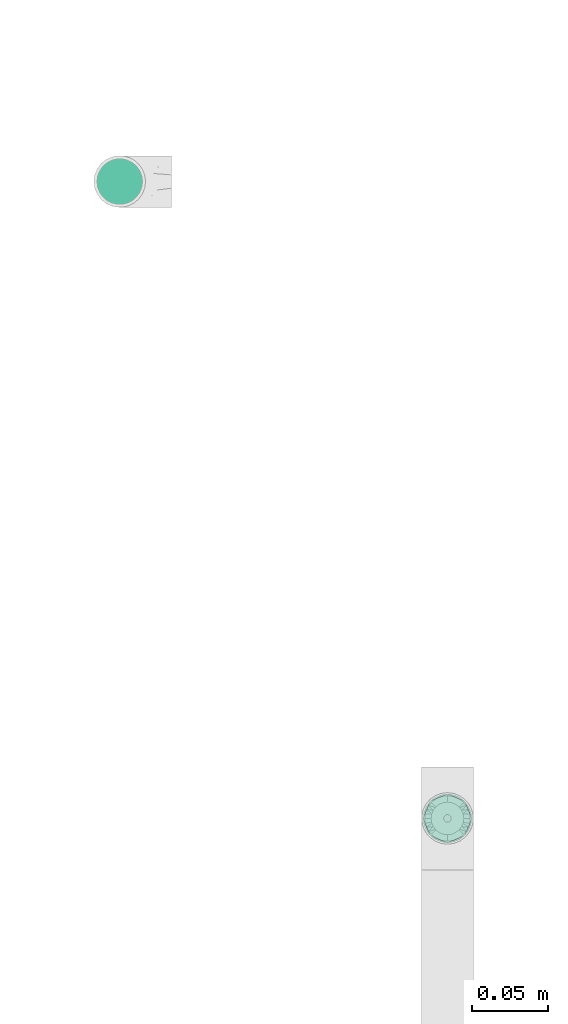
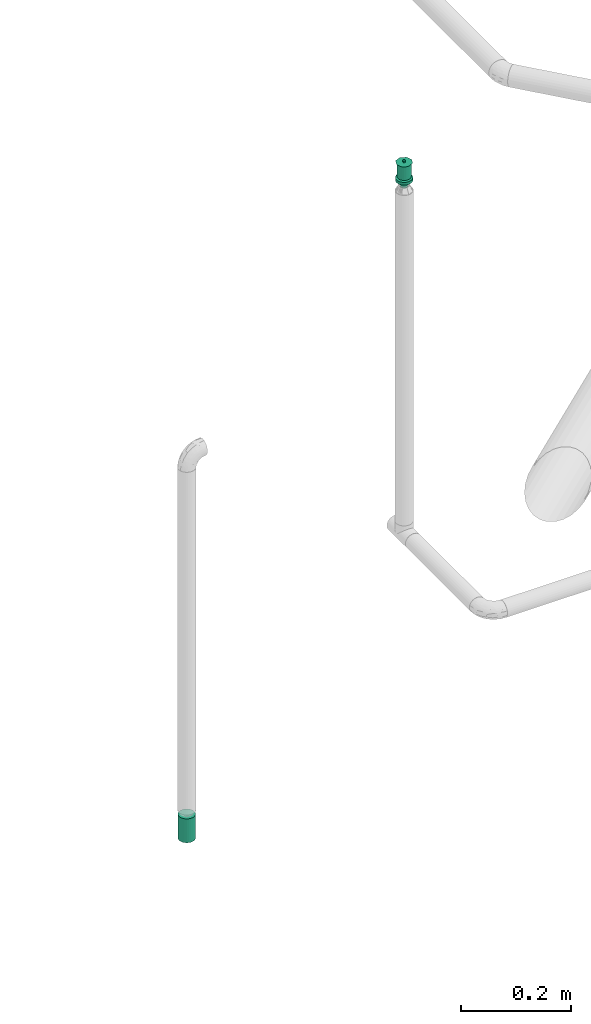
# One storey, part 41 of 94: 2 flow terminals.
"""IFC2X3 building model written with IfcOpenShell, lengths in millimetres."""

from ifc_helpers import new_model, entity, si_unit, converted_unit, derived_unit, direction, frame, origin_with_axes, place, context, subcontext, project, spatial, open_shell, surface_model, source, transform, mapped, type_object, element, save


model = new_model("IFC2X3")

# Units and contexts
model_context = context("Model", 3, precision=0.01, world=frame((0.0, 4.29681676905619e-09, 0.0)), true_north=direction((4.01073788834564e-13, 1.0)))
plan_context = context("Plan", 3, precision=0.01, world=frame((0.0, 4.29681676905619e-09, 0.0)), true_north=direction((4.01073788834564e-13, 1.0)))
body_context = subcontext(model_context, "Body", "Model", "MODEL_VIEW")
ifc_project = project(units=[converted_unit("PLANEANGLEUNIT", "DEGREE", entity("IfcPositiveLengthMeasure", 0.0174532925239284), si_unit("PLANEANGLEUNIT", "RADIAN"), dimensions=[0, 0, 0, 0, 0, 0, 0]), si_unit("AREAUNIT", "SQUARE_METRE"), si_unit("LENGTHUNIT", "METRE", prefix="MILLI"), si_unit("MASSUNIT", "GRAM", prefix="KILO"), si_unit("POWERUNIT", "WATT"), si_unit("PRESSUREUNIT", "PASCAL", prefix="KILO"), si_unit("FORCEUNIT", "NEWTON", prefix="KILO"), si_unit("ELECTRICVOLTAGEUNIT", "VOLT"), si_unit("ELECTRICCURRENTUNIT", "AMPERE"), si_unit("THERMODYNAMICTEMPERATUREUNIT", "DEGREE_CELSIUS"), si_unit("TIMEUNIT", "SECOND"), si_unit("VOLUMEUNIT", "CUBIC_METRE"), derived_unit("LINEARVELOCITYUNIT", [(si_unit("LENGTHUNIT", "METRE"), 1), (si_unit("TIMEUNIT", "SECOND"), -1)]), derived_unit("VOLUMETRICFLOWRATEUNIT", [(si_unit("VOLUMEUNIT", "CUBIC_METRE"), 1), (si_unit("TIMEUNIT", "SECOND"), -1)]), derived_unit("THERMALTRANSMITTANCEUNIT", [(si_unit("POWERUNIT", "WATT"), 1), (si_unit("THERMODYNAMICTEMPERATUREUNIT", "KELVIN"), -1), (si_unit("AREAUNIT", "SQUARE_METRE"), -1)]), derived_unit("SOUNDPRESSUREUNIT", [(si_unit("PRESSUREUNIT", "PASCAL"), 1)])], contexts=[model_context, plan_context])

# Site, building, storey
site_placement = place(None, frame((0.0, -4.29681676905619e-09, 0.0), z_axis=(0.0, 0.0, 1.0), x_axis=(1.0, 0.0, 0.0)))
site = spatial("IfcSite", under=ifc_project, at=site_placement, CompositionType="ELEMENT")
building_placement = place(site_placement, frame((0.0, 4.29681676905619e-09, 0.0), z_axis=(0.0, 0.0, 1.0), x_axis=(1.0, 0.0, 0.0)))
building = spatial("IfcBuilding", under=site, at=building_placement, Name="mc-building", CompositionType="ELEMENT")
storey_placement = place(building_placement, frame((0.0, 0.0, 210900.0), z_axis=(0.0, 0.0, 1.0), x_axis=(1.0, 0.0, 0.0)))
storey = spatial("IfcBuildingStorey", under=building, at=storey_placement, Name="Nivå F", CompositionType="ELEMENT", Elevation=210900.0)

# Flow terminals
fire_suppression_terminal_type_1 = type_object("IfcFireSuppressionTerminalType", Name="68DGR-STD-STÅENDE", PredefinedType="NOTDEFINED")
shared_shape_1 = source(origin_with_axes(), body_context, "Body", "SurfaceModel", [
    surface_model("IfcShellBasedSurfaceModel", [(3.36465, -12.55704, 51.0), (6.5, -11.25833, 51.0), (9.19239, -9.19239, 51.0), (12.55704, -3.36465, 51.0), (-11.25833, -6.5, 51.0), (11.25833, -6.5, 51.0), (-13.0, 0.0, 51.0), (0.0, -13.0, 51.0), (-6.5, -11.25833, 51.0), (-3.36465, -12.55704, 51.0), (-9.19239, -9.19239, 51.0), (-12.55704, -3.36465, 51.0), (13.0, 0.0, 51.0), (12.55704, 3.36465, 51.0), (11.25833, 6.5, 51.0), (9.19239, 9.19239, 51.0), (6.5, 11.25833, 51.0), (3.36465, 12.55704, 51.0), (0.0, 13.0, 51.0), (-3.36465, 12.55704, 51.0), (-12.55704, 3.36465, 51.0), (-9.19239, 9.19239, 51.0), (-11.25833, 6.5, 51.0), (-6.5, 11.25833, 51.0), (0.0, 13.0, 21.14766), (3.36465, 12.55704, 21.14766), (6.5, 11.25833, 21.14766), (-3.36465, 12.55704, 21.14766), (9.19239, 9.19239, 21.14766), (11.25833, 6.5, 21.14766), (12.55704, 3.36465, 21.14766), (-12.55704, 3.36465, 21.14766), (-11.25833, -6.5, 21.14766), (-9.19239, 9.19239, 21.14766), (-6.5, 11.25833, 21.14766), (-11.25833, 6.5, 21.14766), (-13.0, 0.0, 21.14766), (12.55704, -3.36465, 21.14766), (9.19239, -9.19239, 21.14766), (11.25833, -6.5, 21.14766), (6.5, -11.25833, 21.14766), (3.36465, -12.55704, 21.14766), (-6.5, -11.25833, 21.14766), (-9.19239, -9.19239, 21.14766), (-12.55704, -3.36465, 21.14766), (0.0, -13.0, 21.14766), (-3.36465, -12.55704, 21.14766), (13.0, 0.0, 21.14766), (7.24444, -1.94114, 0.1), (1.94114, -7.24444, 0.1), (3.75, -6.49519, 0.1), (5.3033, -5.3033, 0.1), (-5.3033, -5.3033, 0.1), (6.49519, -3.75, 0.1), (5.3033, 5.3033, 0.1), (0.0, -7.5, 0.1), (-3.75, -6.49519, 0.1), (-1.94114, -7.24444, 0.1), (-7.24444, -1.94114, 0.1), (-6.49519, -3.75, 0.1), (-7.24444, 1.94114, 0.1), (7.5, 0.0, 0.1), (6.49519, 3.75, 0.1), (-6.49519, 3.75, 0.1), (1.94114, 7.24444, 0.1), (0.0, 7.5, 0.1), (3.75, 6.49519, 0.1), (-7.5, 0.0, 0.1), (-5.3033, 5.3033, 0.1), (-1.94114, 7.24444, 0.1), (-3.75, 6.49519, 0.1), (7.24444, 1.94114, 0.1), (1.94114, 7.24444, -0.1), (-6.49519, 3.75, -0.1), (0.0, 7.5, -0.1), (5.3033, 5.3033, -0.1), (3.75, 6.49519, -0.1), (6.49519, 3.75, -0.1), (7.24444, 1.94114, -0.1), (-1.94114, 7.24444, -0.1), (-5.3033, 5.3033, -0.1), (-3.75, 6.49519, -0.1), (-7.24444, 1.94114, -0.1), (-7.24444, -1.94114, -0.1), (-7.5, 0.0, -0.1), (7.5, 0.0, -0.1), (7.24444, -1.94114, -0.1), (-5.3033, -5.3033, -0.1), (1.94114, -7.24444, -0.1), (6.49519, -3.75, -0.1), (5.3033, -5.3033, -0.1), (3.75, -6.49519, -0.1), (-6.49519, -3.75, -0.1), (-3.75, -6.49519, -0.1), (0.0, -7.5, -0.1), (-1.94114, -7.24444, -0.1), (0.0, -2.5, 51.0), (-2.5, 0.0, 51.0), (0.0, 2.5, 51.0), (2.5, 0.0, 51.0), (0.0, -16.0, 53.0), (11.31371, -11.31371, 53.0), (-11.31371, -11.31371, 53.0), (-16.0, 0.0, 53.0), (16.0, 0.0, 53.0), (11.31371, 11.31371, 53.0), (0.0, 16.0, 53.0), (-11.31371, 11.31371, 53.0), (1.25, -2.16506, 57.0), (0.0, -2.5, 57.0), (0.64705, -2.41481, 57.0), (2.41481, -0.64705, 57.0), (1.76777, -1.76777, 57.0), (-2.41481, -0.64705, 57.0), (-2.5, 0.0, 57.0), (2.16506, -1.25, 57.0), (-1.25, -2.16506, 57.0), (-0.64705, -2.41481, 57.0), (-1.76777, -1.76777, 57.0), (-2.16506, -1.25, 57.0), (2.5, 0.0, 57.0), (2.41481, 0.64705, 57.0), (2.16506, 1.25, 57.0), (1.76777, 1.76777, 57.0), (0.64705, 2.41481, 57.0), (1.25, 2.16506, 57.0), (-1.76777, 1.76777, 57.0), (0.0, 2.5, 57.0), (-2.16506, 1.25, 57.0), (-2.41481, 0.64705, 57.0), (-0.64705, 2.41481, 57.0), (-1.25, 2.16506, 57.0), (1.25, 2.16506, 51.0), (1.76777, 1.76777, 51.0), (1.15, 1.99186, 51.0), (0.59528, 2.22163, 51.0), (0.64705, 2.41481, 51.0), (0.0, 2.3, 51.0), (1.62635, 1.62635, 51.0), (2.41481, 0.64705, 51.0), (2.3, 0.0, 51.0), (2.22163, 0.59528, 51.0), (2.16506, 1.25, 51.0), (1.99186, 1.15, 51.0), (-0.59528, 2.22163, 51.0), (-0.64705, 2.41481, 51.0), (-1.15, 1.99186, 51.0), (-1.76777, 1.76777, 51.0), (-1.25, 2.16506, 51.0), (-1.62635, 1.62635, 51.0), (-1.99186, 1.15, 51.0), (-2.16506, 1.25, 51.0), (-2.22163, 0.59528, 51.0), (-2.41481, 0.64705, 51.0), (-2.3, 0.0, 51.0), (2.41481, -0.64705, 51.0), (2.22163, -0.59528, 51.0), (1.99186, -1.15, 51.0), (2.16506, -1.25, 51.0), (1.62635, -1.62635, 51.0), (1.76777, -1.76777, 51.0), (1.25, -2.16506, 51.0), (1.15, -1.99186, 51.0), (0.59528, -2.22163, 51.0), (0.64705, -2.41481, 51.0), (0.0, -2.3, 51.0), (-2.16506, -1.25, 51.0), (-1.99186, -1.15, 51.0), (-1.76777, -1.76777, 51.0), (-1.62635, -1.62635, 51.0), (-2.41481, -0.64705, 51.0), (-2.22163, -0.59528, 51.0), (-0.59528, -2.22163, 51.0), (-0.64705, -2.41481, 51.0), (-1.15, -1.99186, 51.0), (-1.25, -2.16506, 51.0), (1.62635, -1.62635, 56.8), (1.15, -1.99186, 56.8), (0.59528, -2.22163, 56.8), (0.0, -2.3, 56.8), (2.22163, 0.59528, 56.8), (1.99186, -1.15, 56.8), (2.22163, -0.59528, 56.8), (-0.59528, -2.22163, 56.8), (-1.15, -1.99186, 56.8), (-1.62635, -1.62635, 56.8), (-1.99186, -1.15, 56.8), (-2.22163, -0.59528, 56.8), (-1.99186, 1.15, 56.8), (2.3, 0.0, 56.8), (1.62635, 1.62635, 56.8), (1.99186, 1.15, 56.8), (1.15, 1.99186, 56.8), (0.0, 2.3, 56.8), (0.59528, 2.22163, 56.8), (-2.22163, 0.59528, 56.8), (-2.3, 0.0, 56.8), (-1.15, 1.99186, 56.8), (-0.59528, 2.22163, 56.8), (-1.62635, 1.62635, 56.8), (4.1411, -15.45481, 19.0), (8.0, -13.85641, 19.0), (11.31371, -11.31371, 19.0), (-8.0, -13.85641, 19.0), (15.45481, -4.1411, 19.0), (16.0, 0.0, 19.0), (13.85641, -8.0, 19.0), (0.0, -16.0, 19.0), (-4.1411, -15.45481, 19.0), (-13.85641, -8.0, 19.0), (-11.31371, -11.31371, 19.0), (-15.45481, -4.1411, 19.0), (15.45481, 4.1411, 19.0), (13.85641, 8.0, 19.0), (11.31371, 11.31371, 19.0), (-4.1411, 15.45481, 19.0), (8.0, 13.85641, 19.0), (4.1411, 15.45481, 19.0), (0.0, 16.0, 19.0), (-13.85641, 8.0, 19.0), (-15.45481, 4.1411, 19.0), (-16.0, 0.0, 19.0), (-11.31371, 11.31371, 19.0), (-8.0, 13.85641, 19.0), (0.0, 16.0, 13.0), (4.1411, 15.45481, 13.0), (8.0, 13.85641, 13.0), (-4.1411, 15.45481, 13.0), (11.31371, 11.31371, 13.0), (13.85641, 8.0, 13.0), (15.45481, 4.1411, 13.0), (-15.45481, -4.1411, 13.0), (-11.31371, 11.31371, 13.0), (-8.0, 13.85641, 13.0), (-13.85641, 8.0, 13.0), (-15.45481, 4.1411, 13.0), (-16.0, 0.0, 13.0), (4.1411, -15.45481, 13.0), (16.0, 0.0, 13.0), (15.45481, -4.1411, 13.0), (13.85641, -8.0, 13.0), (11.31371, -11.31371, 13.0), (8.0, -13.85641, 13.0), (-8.0, -13.85641, 13.0), (-13.85641, -8.0, 13.0), (-11.31371, -11.31371, 13.0), (0.0, -16.0, 13.0), (-4.1411, -15.45481, 13.0), (7.24444, -1.94114, 13.0), (1.94114, -7.24444, 13.0), (3.75, -6.49519, 13.0), (5.3033, -5.3033, 13.0), (-5.3033, -5.3033, 13.0), (6.49519, -3.75, 13.0), (5.3033, 5.3033, 13.0), (0.0, -7.5, 13.0), (-3.75, -6.49519, 13.0), (-1.94114, -7.24444, 13.0), (-7.24444, -1.94114, 13.0), (-6.49519, -3.75, 13.0), (-7.24444, 1.94114, 13.0), (7.5, 0.0, 13.0), (6.49519, 3.75, 13.0), (-6.49519, 3.75, 13.0), (1.94114, 7.24444, 13.0), (0.0, 7.5, 13.0), (3.75, 6.49519, 13.0), (-7.5, 0.0, 13.0), (-5.3033, 5.3033, 13.0), (-1.94114, 7.24444, 13.0), (-3.75, 6.49519, 13.0), (7.24444, 1.94114, 13.0), (3.75, 6.49519, 0.0), (5.3033, 5.3033, 0.0), (3.65, 6.32199, 0.0), (1.88938, 7.05126, 0.0), (0.0, 7.3, 0.0), (1.94114, 7.24444, 0.0), (0.0, 7.5, 0.0), (5.16188, 5.16188, 0.0), (7.24444, 1.94114, 0.0), (7.3, 0.0, 0.0), (7.05126, 1.88938, 0.0), (7.5, 0.0, 0.0), (6.49519, 3.75, 0.0), (6.32199, 3.65, 0.0), (-1.88938, 7.05126, 0.0), (-1.94114, 7.24444, 0.0), (-3.65, 6.32199, 0.0), (-5.3033, 5.3033, 0.0), (-3.75, 6.49519, 0.0), (-5.16188, 5.16188, 0.0), (-6.32199, 3.65, 0.0), (-6.49519, 3.75, 0.0), (-7.05126, 1.88938, 0.0), (-7.24444, 1.94114, 0.0), (-7.3, 0.0, 0.0), (-7.5, 0.0, 0.0), (7.24444, -1.94114, 0.0), (7.05126, -1.88938, 0.0), (6.32199, -3.65, 0.0), (6.49519, -3.75, 0.0), (5.16188, -5.16188, 0.0), (5.3033, -5.3033, 0.0), (3.75, -6.49519, 0.0), (3.65, -6.32199, 0.0), (1.88938, -7.05126, 0.0), (1.94114, -7.24444, 0.0), (0.0, -7.3, 0.0), (0.0, -7.5, 0.0), (-6.49519, -3.75, 0.0), (-6.32199, -3.65, 0.0), (-5.3033, -5.3033, 0.0), (-5.16188, -5.16188, 0.0), (-7.24444, -1.94114, 0.0), (-7.05126, -1.88938, 0.0), (-1.88938, -7.05126, 0.0), (-1.94114, -7.24444, 0.0), (-3.65, -6.32199, 0.0), (-3.75, -6.49519, 0.0), (1.88938, -7.05126, 12.8), (0.0, -7.3, 12.8), (3.65, -6.32199, 12.8), (5.16188, -5.16188, 12.8), (6.32199, -3.65, 12.8), (7.05126, 1.88938, 12.8), (7.05126, -1.88938, 12.8), (-5.16188, -5.16188, 12.8), (-1.88938, -7.05126, 12.8), (-3.65, -6.32199, 12.8), (-6.32199, -3.65, 12.8), (-7.05126, -1.88938, 12.8), (0.0, 7.3, 12.8), (7.3, 0.0, 12.8), (6.32199, 3.65, 12.8), (5.16188, 5.16188, 12.8), (3.65, 6.32199, 12.8), (1.88938, 7.05126, 12.8), (-6.32199, 3.65, 12.8), (-7.05126, 1.88938, 12.8), (-7.3, 0.0, 12.8), (-3.65, 6.32199, 12.8), (-1.88938, 7.05126, 12.8), (-5.16188, 5.16188, 12.8)], [open_shell([[[0, 1, 2]], [[0, 2, 3]], [[0, 3, 4]], [[3, 2, 5]], [[6, 4, 3]], [[7, 8, 9]], [[7, 0, 8]], [[8, 4, 10]], [[0, 4, 8]], [[4, 6, 11]], [[6, 3, 12]], [[13, 14, 15]], [[6, 13, 15]], [[16, 17, 18]], [[15, 16, 19]], [[18, 19, 16]], [[20, 21, 22]], [[20, 6, 15]], [[21, 19, 23]], [[19, 21, 20]], [[15, 19, 20]], [[13, 6, 12]], [[24, 25, 26]], [[27, 24, 26]], [[28, 29, 30]], [[26, 28, 31]], [[28, 32, 31]], [[27, 33, 34]], [[33, 27, 31]], [[33, 31, 35]], [[27, 26, 31]], [[31, 32, 36]], [[32, 28, 30]], [[32, 30, 37]], [[38, 37, 39]], [[38, 40, 41]], [[38, 41, 37]], [[32, 37, 41]], [[32, 42, 43]], [[44, 36, 32]], [[42, 45, 46]], [[42, 32, 41]], [[45, 42, 41]], [[30, 47, 37]], [[4, 32, 43]], [[8, 42, 46]], [[43, 42, 10]], [[9, 46, 45]], [[36, 11, 6]], [[11, 36, 44]], [[11, 44, 4]], [[44, 32, 4]], [[43, 10, 4]], [[8, 10, 42]], [[46, 9, 8]], [[45, 7, 9]], [[0, 41, 40]], [[38, 1, 40]], [[5, 39, 37]], [[38, 39, 2]], [[3, 37, 47]], [[41, 0, 7]], [[40, 1, 0]], [[38, 2, 1]], [[39, 5, 2]], [[3, 5, 37]], [[47, 12, 3]], [[41, 7, 45]], [[30, 13, 47]], [[29, 14, 30]], [[25, 24, 17]], [[15, 29, 28]], [[30, 14, 13]], [[13, 12, 47]], [[16, 26, 17]], [[16, 15, 28]], [[26, 25, 17]], [[15, 14, 29]], [[28, 26, 16]], [[24, 18, 17]], [[19, 27, 34]], [[33, 23, 34]], [[22, 35, 31]], [[33, 35, 21]], [[20, 31, 36]], [[27, 19, 18]], [[34, 23, 19]], [[33, 21, 23]], [[35, 22, 21]], [[20, 22, 31]], [[36, 6, 20]], [[27, 18, 24]], [[48, 49, 50]], [[48, 50, 51]], [[49, 48, 52]], [[48, 51, 53]], [[54, 52, 48]], [[55, 56, 57]], [[56, 55, 52]], [[52, 58, 59]], [[52, 55, 49]], [[52, 60, 58]], [[54, 48, 61]], [[62, 54, 61]], [[54, 63, 52]], [[64, 65, 54]], [[64, 54, 66]], [[63, 54, 65]], [[63, 60, 52]], [[67, 58, 60]], [[68, 69, 70]], [[69, 68, 63]], [[69, 63, 65]], [[71, 62, 61]], [[72, 73, 74]], [[75, 72, 76]], [[75, 77, 78]], [[72, 75, 73]], [[78, 73, 75]], [[79, 80, 81]], [[80, 79, 73]], [[74, 73, 79]], [[78, 82, 73]], [[82, 83, 84]], [[82, 78, 85]], [[86, 87, 85]], [[88, 86, 89]], [[90, 91, 88]], [[90, 88, 89]], [[87, 86, 88]], [[83, 87, 92]], [[83, 85, 87]], [[93, 94, 95]], [[94, 93, 87]], [[88, 94, 87]], [[85, 83, 82]], [[83, 58, 84]], [[92, 59, 83]], [[56, 87, 93]], [[92, 87, 52]], [[57, 93, 95]], [[83, 59, 58]], [[58, 67, 84]], [[57, 56, 93]], [[52, 87, 56]], [[52, 59, 92]], [[55, 57, 95]], [[95, 94, 55]], [[88, 49, 94]], [[91, 50, 88]], [[53, 90, 89]], [[91, 90, 51]], [[48, 89, 86]], [[91, 51, 50]], [[50, 49, 88]], [[61, 48, 86]], [[53, 89, 48]], [[53, 51, 90]], [[85, 61, 86]], [[94, 49, 55]], [[78, 71, 85]], [[77, 62, 78]], [[66, 75, 76]], [[77, 75, 54]], [[64, 76, 72]], [[78, 62, 71]], [[71, 61, 85]], [[64, 66, 76]], [[54, 75, 66]], [[54, 62, 77]], [[65, 64, 72]], [[72, 74, 65]], [[79, 69, 74]], [[81, 70, 79]], [[63, 80, 73]], [[81, 80, 68]], [[60, 73, 82]], [[81, 68, 70]], [[70, 69, 79]], [[67, 60, 82]], [[63, 73, 60]], [[63, 68, 80]], [[84, 67, 82]], [[74, 69, 65]], [[96, 97, 98]], [[98, 99, 96]], [[100, 101, 102]], [[103, 102, 101]], [[101, 104, 103]], [[104, 105, 106]], [[107, 103, 106]], [[106, 103, 104]], [[99, 98, 105]], [[105, 104, 99]], [[98, 106, 105]], [[98, 107, 106]], [[107, 98, 97]], [[103, 107, 97]], [[97, 96, 102]], [[102, 103, 97]], [[96, 100, 102]], [[96, 101, 100]], [[101, 96, 99]], [[104, 101, 99]], [[108, 109, 110]], [[111, 108, 112]], [[113, 108, 114]], [[111, 112, 115]], [[108, 111, 114]], [[109, 116, 117]], [[116, 109, 118]], [[118, 113, 119]], [[118, 109, 108]], [[108, 113, 118]], [[111, 120, 114]], [[121, 122, 123]], [[114, 121, 123]], [[114, 123, 124]], [[124, 123, 125]], [[126, 124, 127]], [[124, 128, 129]], [[129, 114, 124]], [[126, 130, 131]], [[128, 124, 126]], [[130, 126, 127]], [[121, 114, 120]], [[132, 133, 134]], [[132, 134, 135]], [[136, 135, 137]], [[135, 136, 132]], [[136, 137, 98]], [[134, 133, 138]], [[139, 140, 141]], [[140, 139, 99]], [[139, 141, 142]], [[138, 142, 143]], [[142, 138, 133]], [[143, 142, 141]], [[98, 144, 145]], [[98, 137, 144]], [[145, 144, 146]], [[147, 148, 149]], [[146, 148, 145]], [[149, 148, 146]], [[150, 151, 147]], [[151, 150, 152]], [[150, 147, 149]], [[153, 152, 154]], [[152, 153, 151]], [[153, 154, 97]], [[99, 155, 156]], [[156, 155, 157]], [[157, 158, 159]], [[158, 157, 155]], [[159, 158, 160]], [[160, 161, 162]], [[162, 161, 163]], [[163, 164, 165]], [[164, 163, 161]], [[165, 164, 96]], [[162, 159, 160]], [[166, 167, 168]], [[168, 167, 169]], [[167, 166, 170]], [[97, 171, 170]], [[170, 171, 167]], [[97, 154, 171]], [[172, 96, 173]], [[172, 173, 174]], [[169, 175, 168]], [[175, 169, 174]], [[175, 174, 173]], [[165, 96, 172]], [[156, 140, 99]], [[170, 113, 97]], [[166, 119, 170]], [[116, 168, 175]], [[166, 168, 118]], [[117, 175, 173]], [[170, 119, 113]], [[113, 114, 97]], [[117, 116, 175]], [[118, 168, 116]], [[118, 119, 166]], [[109, 117, 173]], [[173, 96, 109]], [[164, 110, 96]], [[161, 108, 164]], [[115, 160, 158]], [[161, 160, 112]], [[111, 158, 155]], [[161, 112, 108]], [[108, 110, 164]], [[120, 111, 155]], [[115, 158, 111]], [[115, 112, 160]], [[99, 120, 155]], [[96, 110, 109]], [[139, 121, 99]], [[142, 122, 139]], [[125, 133, 132]], [[142, 133, 123]], [[124, 132, 136]], [[139, 122, 121]], [[121, 120, 99]], [[124, 125, 132]], [[123, 133, 125]], [[123, 122, 142]], [[127, 124, 136]], [[136, 98, 127]], [[145, 130, 98]], [[148, 131, 145]], [[128, 147, 151]], [[148, 147, 126]], [[129, 151, 153]], [[148, 126, 131]], [[131, 130, 145]], [[114, 129, 153]], [[128, 151, 129]], [[128, 126, 147]], [[97, 114, 153]], [[98, 130, 127]], [[176, 177, 178]], [[176, 178, 179]], [[180, 176, 179]], [[181, 176, 182]], [[180, 182, 176]], [[183, 184, 179]], [[185, 179, 184]], [[186, 187, 185]], [[185, 187, 188]], [[179, 185, 188]], [[189, 182, 180]], [[190, 191, 180]], [[192, 190, 180]], [[193, 194, 192]], [[180, 193, 192]], [[188, 193, 180]], [[195, 188, 196]], [[196, 188, 187]], [[197, 198, 199]], [[188, 199, 198]], [[188, 198, 193]], [[180, 179, 188]], [[154, 187, 171]], [[171, 186, 167]], [[174, 169, 184]], [[185, 169, 167]], [[172, 174, 183]], [[187, 186, 171]], [[154, 196, 187]], [[174, 184, 183]], [[184, 169, 185]], [[167, 186, 185]], [[172, 183, 179]], [[179, 165, 172]], [[165, 178, 163]], [[163, 177, 162]], [[157, 159, 181]], [[176, 159, 162]], [[156, 157, 182]], [[177, 176, 162]], [[163, 178, 177]], [[156, 182, 189]], [[182, 157, 181]], [[159, 176, 181]], [[156, 189, 140]], [[179, 178, 165]], [[140, 180, 141]], [[141, 191, 143]], [[134, 138, 192]], [[190, 138, 143]], [[135, 134, 194]], [[180, 191, 141]], [[140, 189, 180]], [[134, 192, 194]], [[192, 138, 190]], [[143, 191, 190]], [[135, 194, 193]], [[193, 137, 135]], [[137, 198, 144]], [[144, 197, 146]], [[150, 149, 188]], [[199, 149, 146]], [[152, 150, 195]], [[197, 199, 146]], [[144, 198, 197]], [[152, 195, 196]], [[195, 150, 188]], [[149, 199, 188]], [[152, 196, 154]], [[193, 198, 137]], [[200, 201, 202]], [[203, 200, 202]], [[204, 205, 202]], [[204, 202, 206]], [[203, 202, 205]], [[207, 203, 208]], [[207, 200, 203]], [[203, 209, 210]], [[209, 203, 211]], [[205, 211, 203]], [[205, 212, 211]], [[212, 213, 214]], [[215, 212, 214]], [[216, 217, 218]], [[214, 216, 215]], [[218, 215, 216]], [[211, 219, 220]], [[221, 211, 220]], [[222, 215, 223]], [[215, 222, 219]], [[219, 211, 215]], [[211, 212, 215]], [[224, 225, 226]], [[227, 224, 226]], [[228, 229, 230]], [[227, 226, 228]], [[227, 228, 231]], [[227, 232, 233]], [[232, 227, 234]], [[234, 231, 235]], [[231, 234, 227]], [[235, 231, 236]], [[228, 230, 231]], [[237, 238, 239]], [[237, 239, 240]], [[241, 242, 237]], [[241, 237, 240]], [[238, 237, 243]], [[244, 243, 245]], [[243, 244, 231]], [[243, 246, 247]], [[243, 231, 238]], [[237, 246, 243]], [[238, 231, 230]], [[231, 211, 236]], [[244, 209, 231]], [[203, 245, 243]], [[244, 245, 210]], [[208, 243, 247]], [[231, 209, 211]], [[211, 221, 236]], [[208, 203, 243]], [[210, 245, 203]], [[210, 209, 244]], [[207, 208, 247]], [[247, 246, 207]], [[237, 200, 246]], [[242, 201, 237]], [[206, 241, 240]], [[242, 241, 202]], [[204, 240, 239]], [[242, 202, 201]], [[201, 200, 237]], [[205, 204, 239]], [[206, 240, 204]], [[206, 202, 241]], [[238, 205, 239]], [[246, 200, 207]], [[230, 212, 238]], [[229, 213, 230]], [[216, 228, 226]], [[229, 228, 214]], [[217, 226, 225]], [[230, 213, 212]], [[212, 205, 238]], [[217, 216, 226]], [[214, 228, 216]], [[214, 213, 229]], [[218, 217, 225]], [[225, 224, 218]], [[227, 215, 224]], [[233, 223, 227]], [[219, 232, 234]], [[233, 232, 222]], [[220, 234, 235]], [[233, 222, 223]], [[223, 215, 227]], [[221, 220, 235]], [[219, 234, 220]], [[219, 222, 232]], [[236, 221, 235]], [[224, 215, 218]], [[248, 249, 250]], [[248, 250, 251]], [[249, 248, 252]], [[248, 251, 253]], [[254, 252, 248]], [[255, 256, 257]], [[256, 255, 252]], [[252, 258, 259]], [[252, 255, 249]], [[252, 260, 258]], [[254, 248, 261]], [[262, 254, 261]], [[254, 263, 252]], [[264, 265, 254]], [[264, 254, 266]], [[263, 254, 265]], [[263, 260, 252]], [[267, 258, 260]], [[268, 269, 270]], [[269, 268, 263]], [[269, 263, 265]], [[271, 262, 261]], [[272, 273, 274]], [[272, 274, 275]], [[276, 277, 275]], [[277, 276, 278]], [[275, 277, 272]], [[274, 273, 279]], [[280, 281, 282]], [[281, 280, 283]], [[280, 282, 284]], [[279, 284, 285]], [[284, 279, 273]], [[285, 284, 282]], [[278, 286, 287]], [[287, 286, 288]], [[289, 290, 291]], [[288, 290, 287]], [[288, 291, 290]], [[278, 276, 286]], [[292, 293, 289]], [[293, 292, 294]], [[292, 289, 291]], [[295, 294, 296]], [[294, 295, 293]], [[295, 296, 297]], [[283, 298, 299]], [[299, 298, 300]], [[300, 301, 302]], [[301, 300, 298]], [[302, 301, 303]], [[303, 304, 305]], [[305, 304, 306]], [[306, 307, 308]], [[307, 306, 304]], [[308, 307, 309]], [[305, 302, 303]], [[310, 311, 312]], [[312, 311, 313]], [[311, 310, 314]], [[297, 315, 314]], [[314, 315, 311]], [[297, 296, 315]], [[316, 309, 317]], [[316, 317, 318]], [[313, 319, 312]], [[313, 318, 319]], [[319, 318, 317]], [[308, 309, 316]], [[299, 281, 283]], [[314, 258, 297]], [[310, 259, 314]], [[256, 312, 319]], [[310, 312, 252]], [[257, 319, 317]], [[314, 259, 258]], [[258, 267, 297]], [[257, 256, 319]], [[252, 312, 256]], [[252, 259, 310]], [[255, 257, 317]], [[317, 309, 255]], [[307, 249, 309]], [[304, 250, 307]], [[253, 303, 301]], [[304, 303, 251]], [[248, 301, 298]], [[304, 251, 250]], [[250, 249, 307]], [[261, 248, 298]], [[253, 301, 248]], [[253, 251, 303]], [[283, 261, 298]], [[309, 249, 255]], [[280, 271, 283]], [[284, 262, 280]], [[266, 273, 272]], [[284, 273, 254]], [[264, 272, 277]], [[280, 262, 271]], [[271, 261, 283]], [[264, 266, 272]], [[254, 273, 266]], [[254, 262, 284]], [[265, 264, 277]], [[277, 278, 265]], [[287, 269, 278]], [[290, 270, 287]], [[263, 289, 293]], [[290, 289, 268]], [[260, 293, 295]], [[290, 268, 270]], [[270, 269, 287]], [[267, 260, 295]], [[263, 293, 260]], [[263, 268, 289]], [[297, 267, 295]], [[278, 269, 265]], [[320, 321, 322]], [[323, 322, 324]], [[325, 326, 322]], [[324, 322, 326]], [[322, 327, 325]], [[328, 329, 321]], [[327, 321, 329]], [[330, 331, 327]], [[322, 321, 327]], [[331, 332, 327]], [[326, 325, 333]], [[334, 325, 332]], [[335, 334, 336]], [[332, 337, 336]], [[334, 332, 336]], [[331, 338, 332]], [[339, 338, 340]], [[340, 338, 331]], [[341, 342, 343]], [[332, 338, 343]], [[332, 343, 342]], [[332, 325, 327]], [[296, 331, 315]], [[315, 330, 311]], [[318, 313, 329]], [[327, 313, 311]], [[316, 318, 328]], [[331, 330, 315]], [[296, 340, 331]], [[318, 329, 328]], [[329, 313, 327]], [[311, 330, 327]], [[316, 328, 321]], [[321, 308, 316]], [[308, 320, 306]], [[306, 322, 305]], [[300, 302, 324]], [[323, 302, 305]], [[299, 300, 326]], [[322, 323, 305]], [[306, 320, 322]], [[299, 326, 333]], [[326, 300, 324]], [[302, 323, 324]], [[299, 333, 281]], [[321, 320, 308]], [[281, 325, 282]], [[282, 334, 285]], [[274, 279, 336]], [[335, 279, 285]], [[275, 274, 337]], [[325, 334, 282]], [[281, 333, 325]], [[274, 336, 337]], [[336, 279, 335]], [[285, 334, 335]], [[275, 337, 332]], [[332, 276, 275]], [[276, 342, 286]], [[286, 341, 288]], [[292, 291, 338]], [[343, 291, 288]], [[294, 292, 339]], [[341, 343, 288]], [[286, 342, 341]], [[294, 339, 340]], [[339, 292, 338]], [[291, 343, 338]], [[294, 340, 296]], [[332, 342, 276]]])]),
])
flow_terminal_1_placement = place(storey_placement, frame((716214.70896, 441183.45685, 4367.0), z_axis=(0.0, 0.0, 1.0), x_axis=(1.0, 0.0, 0.0)))
element("IfcFlowTerminal", 1, at=flow_terminal_1_placement, inside=storey, type_object=fire_suppression_terminal_type_1, Name="68DGR-STD-STÅENDE", context=body_context, shape_type="MappedRepresentation", body=[
    mapped(shared_shape_1, transform((0.0, 0.0, 0.0), scale=1.0)),
])
fire_suppression_terminal_type_2 = type_object("IfcFireSuppressionTerminalType", Name="SP-15-K80-68DGR-STD-HIMLING", PredefinedType="NOTDEFINED")
shared_shape_2 = source(origin_with_axes(), body_context, "Body", "SurfaceModel", [
    surface_model("IfcShellBasedSurfaceModel", [(4.1411, -15.45481, 53.0), (8.0, -13.85641, 53.0), (11.31371, -11.31371, 53.0), (-8.0, -13.85641, 53.0), (15.45481, -4.1411, 53.0), (16.0, 0.0, 53.0), (13.85641, -8.0, 53.0), (0.0, -16.0, 53.0), (-4.1411, -15.45481, 53.0), (-13.85641, -8.0, 53.0), (-11.31371, -11.31371, 53.0), (-15.45481, -4.1411, 53.0), (15.45481, 4.1411, 53.0), (13.85641, 8.0, 53.0), (11.31371, 11.31371, 53.0), (-4.1411, 15.45481, 53.0), (8.0, 13.85641, 53.0), (4.1411, 15.45481, 53.0), (0.0, 16.0, 53.0), (-13.85641, 8.0, 53.0), (-15.45481, 4.1411, 53.0), (-16.0, 0.0, 53.0), (-11.31371, 11.31371, 53.0), (-8.0, 13.85641, 53.0), (0.0, 16.0, 0.0), (4.1411, 15.45481, 0.0), (8.0, 13.85641, 0.0), (-4.1411, 15.45481, 0.0), (11.31371, 11.31371, 0.0), (13.85641, 8.0, 0.0), (15.45481, 4.1411, 0.0), (-15.45481, -4.1411, 0.0), (-11.31371, 11.31371, 0.0), (-8.0, 13.85641, 0.0), (-13.85641, 8.0, 0.0), (-15.45481, 4.1411, 0.0), (-16.0, 0.0, 0.0), (4.1411, -15.45481, 0.0), (16.0, 0.0, 0.0), (15.45481, -4.1411, 0.0), (13.85641, -8.0, 0.0), (11.31371, -11.31371, 0.0), (8.0, -13.85641, 0.0), (-8.0, -13.85641, 0.0), (-13.85641, -8.0, 0.0), (-11.31371, -11.31371, 0.0), (0.0, -16.0, 0.0), (-4.1411, -15.45481, 0.0)], [open_shell([[[0, 1, 2]], [[3, 0, 2]], [[4, 5, 2]], [[4, 2, 6]], [[3, 2, 5]], [[7, 3, 8]], [[7, 0, 3]], [[3, 9, 10]], [[9, 3, 11]], [[5, 11, 3]], [[5, 12, 11]], [[12, 13, 14]], [[15, 12, 14]], [[16, 17, 18]], [[14, 16, 15]], [[18, 15, 16]], [[11, 19, 20]], [[21, 11, 20]], [[22, 15, 23]], [[15, 22, 19]], [[19, 11, 15]], [[11, 12, 15]], [[24, 25, 26]], [[27, 24, 26]], [[28, 29, 30]], [[27, 26, 28]], [[27, 28, 31]], [[27, 32, 33]], [[32, 27, 34]], [[34, 31, 35]], [[31, 34, 27]], [[35, 31, 36]], [[28, 30, 31]], [[37, 38, 39]], [[37, 39, 40]], [[41, 42, 37]], [[41, 37, 40]], [[38, 37, 43]], [[44, 43, 45]], [[43, 44, 31]], [[43, 46, 47]], [[43, 31, 38]], [[37, 46, 43]], [[38, 31, 30]], [[11, 31, 44]], [[45, 9, 44]], [[3, 43, 47]], [[45, 43, 10]], [[8, 47, 46]], [[31, 21, 36]], [[31, 11, 21]], [[44, 9, 11]], [[45, 10, 9]], [[3, 10, 43]], [[47, 8, 3]], [[46, 7, 8]], [[0, 37, 42]], [[41, 1, 42]], [[6, 40, 39]], [[41, 40, 2]], [[4, 39, 38]], [[37, 0, 7]], [[42, 1, 0]], [[41, 2, 1]], [[40, 6, 2]], [[4, 6, 39]], [[38, 5, 4]], [[37, 7, 46]], [[12, 38, 30]], [[13, 30, 29]], [[16, 26, 25]], [[17, 25, 24]], [[30, 13, 12]], [[12, 5, 38]], [[28, 14, 13]], [[28, 26, 14]], [[14, 26, 16]], [[25, 17, 16]], [[28, 13, 29]], [[24, 18, 17]], [[15, 27, 33]], [[32, 23, 33]], [[19, 34, 35]], [[32, 34, 22]], [[20, 35, 36]], [[27, 15, 18]], [[33, 23, 15]], [[32, 22, 23]], [[34, 19, 22]], [[20, 19, 35]], [[36, 21, 20]], [[27, 18, 24]]])]),
])
flow_terminal_2_placement = place(storey_placement, frame((716000.0, 441600.7, 2797.53873999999), z_axis=(0.0, 0.0, -1.0), x_axis=(-1.0, 0.0, 0.0)))
element("IfcFlowTerminal", 2, at=flow_terminal_2_placement, inside=storey, type_object=fire_suppression_terminal_type_2, Name="SP-15-K80-68DGR-STD-HIMLING", context=body_context, shape_type="MappedRepresentation", body=[
    mapped(shared_shape_2, transform((0.0, 0.0, 0.0), scale=1.0)),
])

save(model, "model.ifc")
